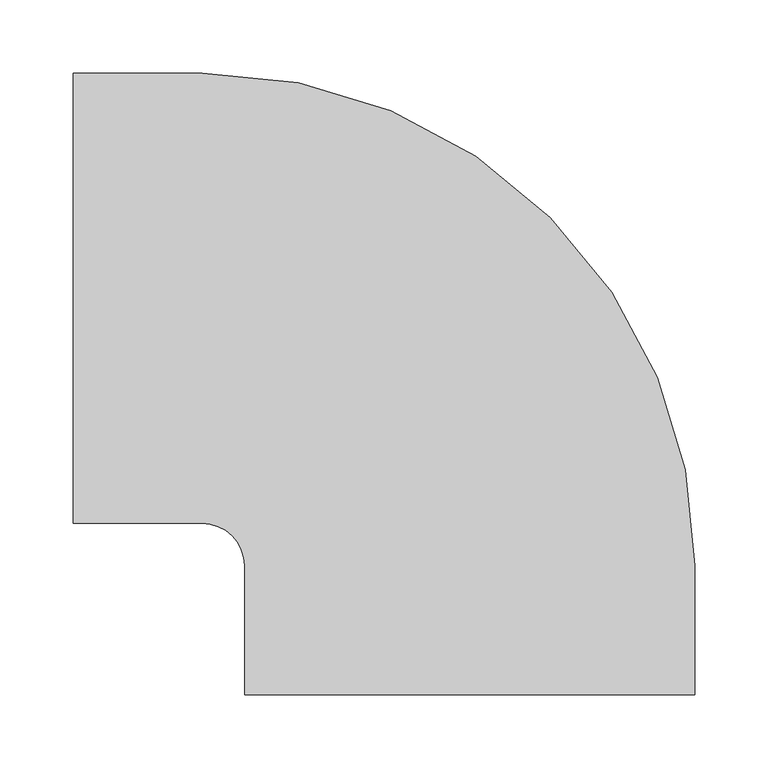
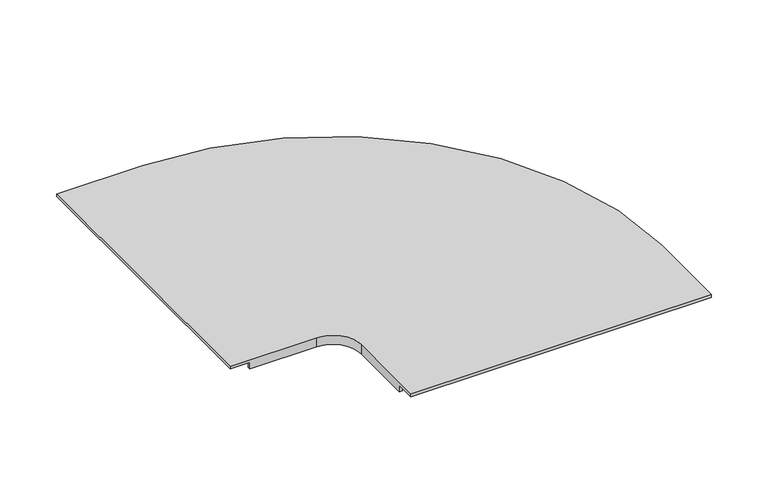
"""IFC4 building model written with IfcOpenShell, lengths in millimetres: cable carrier fitting geometry, CCT_Hyperline_FBTR-ELB90-CVR_Крышка на горизонтальный изгиб на 90°пластиковый : Крышка на горизонтальный изгиб на 90° пластиковый."""

from ifc_helpers import new_model, si_unit, frame, origin, place, context, project, spatial, polyline, circle_curve, source, transform, mapped, element, save
from ifc_brep_helpers import plane_surface, cylinder_surface, revolved_surface, advanced_brep


def cable_carrier_fitting_a3d14f12(model_context):
    return source(origin(), model_context, "Body", "AdvancedBrep", [
        advanced_brep(
        [(-179.2249258, 10.0558071, 53.0), (-179.2249258, 316.0558071, 53.0), (-179.2249258, 316.0558071, 50.0), (-179.2249258, 10.0558071, 50.0), (-91.7249258, 10.0558071, 53.0), (-62.7249258, -18.9441929, 53.0), (-62.7249258, -106.4441929, 53.0), (243.2750742, -106.4441929, 53.0), (243.2750742, -18.9441929, 53.0), (-91.7249258, 316.0558071, 53.0), (-91.7249258, 313.0558071, 50.0), (240.2750742, -18.9441929, 50.0), (240.2750742, -86.4441929, 50.0), (243.2750742, -86.4441929, 50.0), (243.2750742, -106.4441929, 50.0), (-62.7249258, -106.4441929, 50.0), (-62.7249258, -86.4441929, 50.0), (-59.7249258, -86.4441929, 50.0), (-59.7249258, -18.9441929, 50.0), (-91.7249258, 13.0558071, 50.0), (-159.2249258, 13.0558071, 50.0), (-159.2249258, 10.0558071, 50.0), (-159.2249258, 316.0558071, 50.0), (-159.2249258, 313.0558071, 50.0), (-91.7249258, 13.0558071, 43.0), (-159.2249258, 13.0558071, 43.0), (-59.7249258, -18.9441929, 43.0), (-59.7249258, -86.4441929, 43.0), (-62.7249258, -86.4441929, 43.0), (-62.7249258, -18.9441929, 43.0), (-91.7249258, 10.0558071, 43.0), (-159.2249258, 10.0558071, 43.0), (-91.7249258, 316.0558071, 43.0), (-159.2249258, 316.0558071, 43.0), (243.2750742, -18.9441929, 43.0), (243.2750742, -86.4441929, 43.0), (240.2750742, -86.4441929, 43.0), (240.2750742, -18.9441929, 43.0), (-91.7249258, 313.0558071, 43.0), (-159.2249258, 313.0558071, 43.0)],
        [
            (0, 1),
            (1, 2),
            (2, 3),
            (3, 0),
            (0, 4),
            (4, 5, circle_curve(frame((-91.7249258, -18.9441929, 53.0), z_axis=(0.0, 0.0, -1.0), x_axis=(0.0, 1.0, 0.0)), 29.0)),
            (5, 6),
            (6, 7),
            (7, 8),
            (8, 9, circle_curve(frame((-91.7249258, -18.9441929, 53.0), z_axis=(0.0, 0.0, 1.0), x_axis=(0.0, 1.0, 0.0)), 335.0)),
            (9, 1),
            (10, 11, circle_curve(frame((-91.7249258, -18.9441929, 50.0), z_axis=(0.0, 0.0, -1.0), x_axis=(0.0, 1.0, 0.0)), 332.0)),
            (11, 12),
            (12, 13),
            (13, 14),
            (14, 15),
            (15, 16),
            (16, 17),
            (17, 18),
            (18, 19, circle_curve(frame((-91.7249258, -18.9441929, 50.0), z_axis=(0.0, 0.0, 1.0), x_axis=(0.0, 1.0, 0.0)), 32.0)),
            (19, 20),
            (20, 21),
            (21, 3),
            (2, 22),
            (22, 23),
            (23, 10),
            (19, 24),
            (24, 25),
            (25, 20),
            (24, 26, circle_curve(frame((-91.7249258, -18.9441929, 43.0), z_axis=(0.0, 0.0, -1.0), x_axis=(0.0, 1.0, 0.0)), 32.0)),
            (26, 27),
            (27, 28),
            (28, 29),
            (29, 30, circle_curve(frame((-91.7249258, -18.9441929, 43.0), z_axis=(0.0, 0.0, 1.0), x_axis=(0.0, 1.0, 0.0)), 29.0)),
            (30, 31),
            (31, 25),
            (21, 31),
            (30, 4),
            (18, 26),
            (29, 5),
            (6, 15),
            (14, 7),
            (17, 27),
            (28, 16),
            (9, 32),
            (32, 33),
            (33, 22),
            (32, 34, circle_curve(frame((-91.7249258, -18.9441929, 43.0), z_axis=(0.0, 0.0, -1.0), x_axis=(0.0, 1.0, 0.0)), 335.0)),
            (34, 35),
            (35, 36),
            (36, 37),
            (37, 38, circle_curve(frame((-91.7249258, -18.9441929, 43.0), z_axis=(0.0, 0.0, 1.0), x_axis=(0.0, 1.0, 0.0)), 332.0)),
            (38, 39),
            (39, 33),
            (38, 10),
            (23, 39),
            (8, 34),
            (37, 11),
            (13, 35),
            (36, 12),
        ],
        [
            plane_surface(frame((-179.2249258, 13.0558071, 25.0), z_axis=(-1.0, 0.0, 0.0), x_axis=(0.0, 0.0, 1.0))),
            plane_surface(frame((-179.2249258, 10.0558071, 53.0), z_axis=(0.0, 0.0, 1.0), x_axis=(1.0, 0.0, 0.0))),
            plane_surface(frame((-179.2249258, 313.0558071, 50.0), z_axis=(0.0, 0.0, -1.0), x_axis=(1.0, 0.0, 0.0))),
            plane_surface(frame((-179.2249258, 13.0558071, 50.0), z_axis=(0.0, 1.0, 0.0), x_axis=(1.0, 0.0, 0.0))),
            plane_surface(frame((-179.2249258, 13.0558071, 43.0), z_axis=(0.0, 0.0, -1.0), x_axis=(1.0, 0.0, 0.0))),
            plane_surface(frame((-179.2249258, 10.0558071, 43.0), z_axis=(0.0, -1.0, 0.0), x_axis=(1.0, 0.0, 0.0))),
            cylinder_surface(frame((-91.7249258, -18.9441929, 25.0), z_axis=(0.0, 0.0, -1.0), x_axis=(0.0, 1.0, 0.0)), 32.0),
            revolved_surface(polyline([(-91.7249258, 10.055807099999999, 43.0), (-91.7249258, 10.055807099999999, 53.0)]), (-91.7249258, -18.9441929, 25.0), (0.0, 0.0, -1.0)),
            plane_surface(frame((-59.7249258, -106.4441929, 25.0), z_axis=(0.0, -1.0, 0.0), x_axis=(0.0, 0.0, 1.0))),
            plane_surface(frame((-59.7249258, -18.9441929, 50.0), z_axis=(1.0, 0.0, 0.0), x_axis=(0.0, -1.0, 0.0))),
            plane_surface(frame((-62.7249258, -18.9441929, 43.0), z_axis=(-1.0, 0.0, 0.0), x_axis=(0.0, -1.0, 0.0))),
            plane_surface(frame((-179.2249258, 316.0558071, 53.0), z_axis=(0.0, 1.0, 0.0), x_axis=(1.0, 0.0, 0.0))),
            plane_surface(frame((-179.2249258, 316.0558071, 43.0), z_axis=(0.0, 0.0, -1.0), x_axis=(1.0, 0.0, 0.0))),
            plane_surface(frame((-179.2249258, 313.0558071, 43.0), z_axis=(0.0, -1.0, 0.0), x_axis=(1.0, 0.0, 0.0))),
            cylinder_surface(frame((-91.7249258, -18.9441929, 25.0), z_axis=(0.0, 0.0, -1.0), x_axis=(0.0, 1.0, 0.0)), 335.0),
            revolved_surface(polyline([(-91.7249258, 313.0558071, 43.0), (-91.7249258, 313.0558071, 50.0)]), (-91.7249258, -18.9441929, 25.0), (0.0, 0.0, -1.0)),
            plane_surface(frame((243.2750742, -18.9441929, 53.0), z_axis=(1.0, 0.0, 0.0), x_axis=(0.0, -1.0, 0.0))),
            plane_surface(frame((240.2750742, -18.9441929, 43.0), z_axis=(-1.0, 0.0, 0.0), x_axis=(0.0, -1.0, 0.0))),
            plane_surface(frame((-159.2249258, -225.5092401, 43.0), z_axis=(-1.0, 0.0, 0.0), x_axis=(0.0, 1.0, 0.0))),
            plane_surface(frame((-218.796213, -86.4441929, 50.0), z_axis=(0.0, -1.0, 0.0), x_axis=(1.0, 0.0, 0.0))),
        ],
        [
            (0, [[1, 2, 3, 4]]),
            (1, [[-1, 5, 6, 7, 8, 9, 10, 11]]),
            (2, [[12, 13, 14, 15, 16, 17, 18, 19, 20, 21, 22, 23, -3, 24, 25, 26]]),
            (3, [[27, 28, 29, -21]]),
            (4, [[30, 31, 32, 33, 34, 35, 36, -28]]),
            (5, [[-5, -4, -23, 37, -35, 38]]),
            (6, [[-20, 39, -30, -27]]),
            (7, [[-6, -38, -34, 40]]),
            (8, [[-8, 41, -16, 42]]),
            (9, [[-39, -19, 43, -31]]),
            (10, [[-7, -40, -33, 44, -17, -41]]),
            (11, [[-11, 45, 46, 47, -24, -2]]),
            (12, [[48, 49, 50, 51, 52, 53, 54, -46]]),
            (13, [[55, -26, 56, -53]]),
            (14, [[-10, 57, -48, -45]]),
            (15, [[-12, -55, -52, 58]]),
            (16, [[-9, -42, -15, 59, -49, -57]]),
            (17, [[-58, -51, 60, -13]]),
            (18, [[-22, -29, -36, -37]]),
            (18, [[-25, -47, -54, -56]]),
            (19, [[-14, -60, -50, -59]]),
            (19, [[-18, -44, -32, -43]]),
        ],
    ),
    ])


if __name__ == "__main__":
    model = new_model("IFC4")
    model_context = context("Model", 3, world=origin())
    ifc_project = project(units=[si_unit("LENGTHUNIT", "METRE", prefix="MILLI")], contexts=[model_context])
    site = spatial("IfcSite", under=ifc_project)
    building = spatial("IfcBuilding", under=site)
    placement = place(None, origin())
    cable_carrier_fitting_shape = cable_carrier_fitting_a3d14f12(model_context)
    element("IfcCableCarrierFitting", 1, ObjectType="CCT_Hyperline_FBTR-ELB90-CVR_Крышка на горизонтальный изгиб на 90°пластиковый : Крышка на горизонтальный изгиб на 90° пластиковый", at=placement, inside=building, context=model_context, shape_type="MappedRepresentation", body=[
        mapped(cable_carrier_fitting_shape, transform((0.0, 0.0, 0.0), x_axis=(1.0, 0.0, 0.0), y_axis=(0.0, 1.0, 0.0), z_axis=(0.0, 0.0, 1.0))),
    ])
    save(model, "model.ifc")
